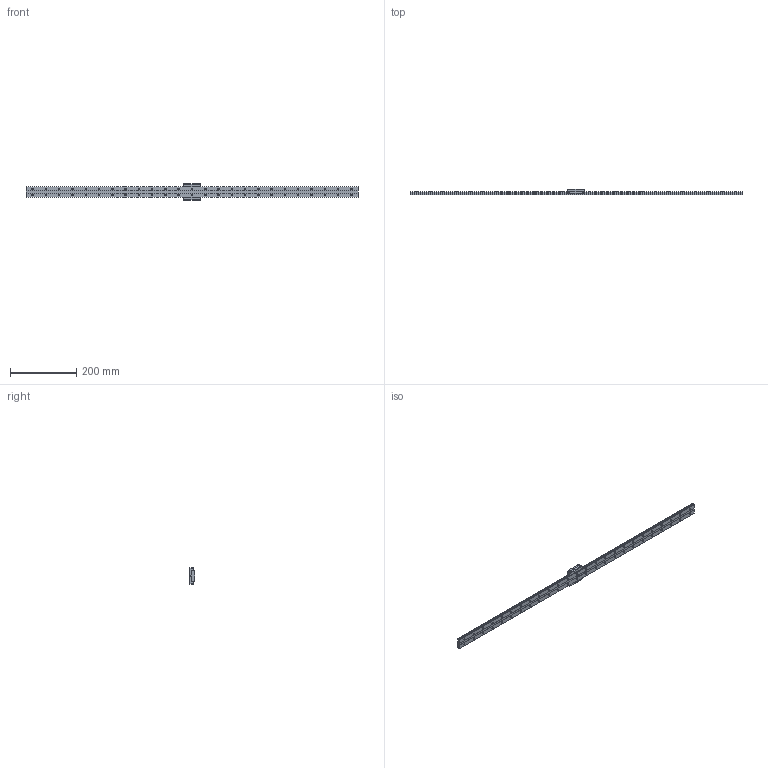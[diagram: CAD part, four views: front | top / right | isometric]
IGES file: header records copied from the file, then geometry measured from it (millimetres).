
Start section: Data from XPlus IGES,  Spatial Corp. Copyright (c) 1999-2004
Global section: file name: SHW17CRM1UU1000200474.5000.igs; native system:  By Spatial Corp.; preprocessor: XPlus ACIS/IGES 3.0; author: Noname; organization: Noname; date: 20161110.134544; units: millimetre
Bounding box: 1000 x 17 x 50 mm (x, y, z)
Surface area: 100655 mm2 (no closed solid volume)
Topology: 0 solids, 0 shells, 404 faces, 2040 edges, 2032 vertices
Faces by surface type: revolution 270, extrusion 134
